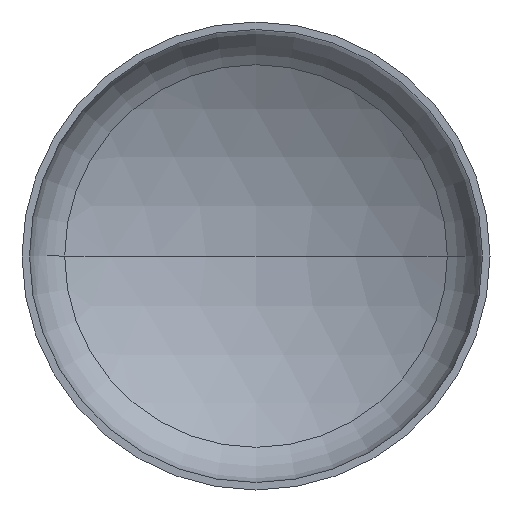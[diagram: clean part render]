
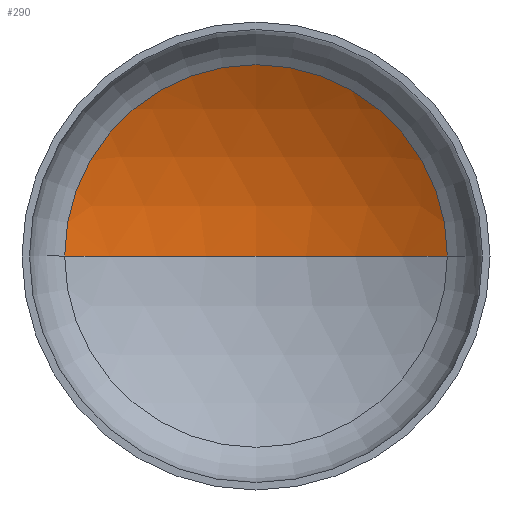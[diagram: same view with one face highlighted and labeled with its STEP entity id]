
A CAD part, front view. The second image highlights one B-rep face of the part: STEP entity #290.
In plain terms, the highlighted spherical face has radius 3200 mm.
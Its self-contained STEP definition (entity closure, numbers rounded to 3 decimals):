
#6 = EDGE_LOOP ( 'NONE', ( #113, #76, #71 ) ) ;
#7 = AXIS2_PLACEMENT_3D ( 'NONE', #215, #213, #232 ) ;
#8 = AXIS2_PLACEMENT_3D ( 'NONE', #204, #224, #336 ) ;
#14 = AXIS2_PLACEMENT_3D ( 'NONE', #293, #291, #379 ) ;
#40 = AXIS2_PLACEMENT_3D ( 'NONE', #281, #272, #269 ) ;
#71 = ORIENTED_EDGE ( 'NONE', *, *, #347, .T. ) ;
#76 = ORIENTED_EDGE ( 'NONE', *, *, #348, .T. ) ;
#91 = SPHERICAL_SURFACE ( 'NONE', #40, 3200. ) ;
#104 = VERTEX_POINT ( 'NONE', #388 ) ;
#106 = VERTEX_POINT ( 'NONE', #330 ) ;
#113 = ORIENTED_EDGE ( 'NONE', *, *, #328, .F. ) ;
#173 = VERTEX_POINT ( 'NONE', #263 ) ;
#204 = CARTESIAN_POINT ( 'NONE',  ( 0., 648.633, 0. ) ) ;
#213 = DIRECTION ( 'NONE',  ( 0., 0., -1. ) ) ;
#215 = CARTESIAN_POINT ( 'NONE',  ( 0., -2101.977, 0. ) ) ;
#224 = DIRECTION ( 'NONE',  ( 0., -1., 0. ) ) ;
#232 = DIRECTION ( 'NONE',  ( -1., 0., 0. ) ) ;
#247 = CIRCLE ( 'NONE', #8, 1635.28 ) ;
#261 = CIRCLE ( 'NONE', #14, 3200. ) ;
#263 = CARTESIAN_POINT ( 'NONE',  ( 0., 1098.023, 0. ) ) ;
#269 = DIRECTION ( 'NONE',  ( -1., 0., 0. ) ) ;
#272 = DIRECTION ( 'NONE',  ( 0., 0., -1. ) ) ;
#281 = CARTESIAN_POINT ( 'NONE',  ( 0., -2101.977, 0. ) ) ;
#290 = ADVANCED_FACE ( 'NONE', ( #384 ), #91, .F. ) ;
#291 = DIRECTION ( 'NONE',  ( 0., 0., 1. ) ) ;
#293 = CARTESIAN_POINT ( 'NONE',  ( 0., -2101.977, 0. ) ) ;
#305 = CIRCLE ( 'NONE', #7, 3200. ) ;
#328 = EDGE_CURVE ( 'NONE', #173, #104, #261, .T. ) ;
#330 = CARTESIAN_POINT ( 'NONE',  ( 1635.28, 648.633, 0. ) ) ;
#336 = DIRECTION ( 'NONE',  ( 1., 0., 0. ) ) ;
#347 = EDGE_CURVE ( 'NONE', #106, #104, #247, .T. ) ;
#348 = EDGE_CURVE ( 'NONE', #173, #106, #305, .T. ) ;
#379 = DIRECTION ( 'NONE',  ( 1., 0., 0. ) ) ;
#384 = FACE_OUTER_BOUND ( 'NONE', #6, .T. ) ;
#388 = CARTESIAN_POINT ( 'NONE',  ( -1635.28, 648.633, 0. ) ) ;
